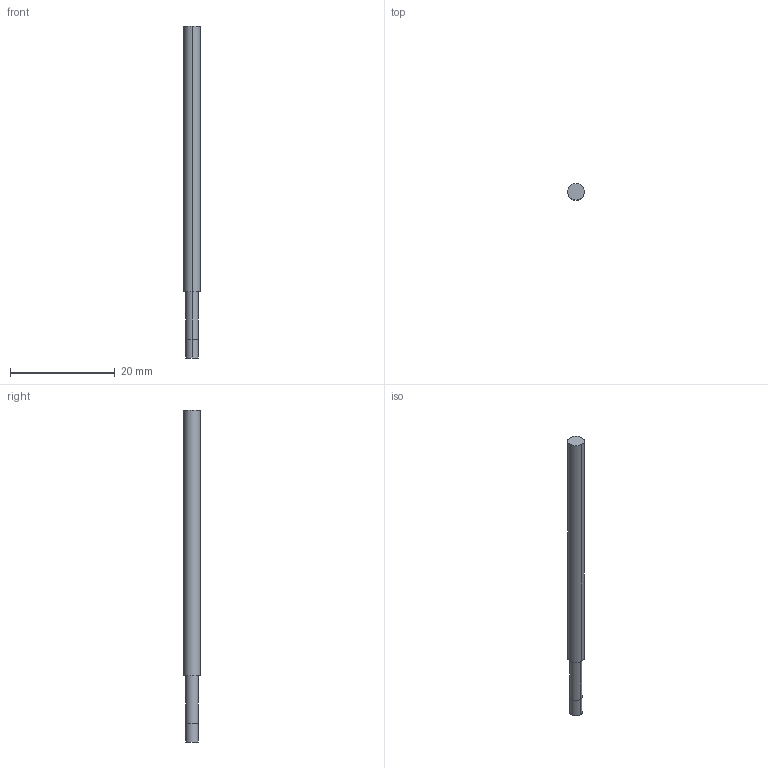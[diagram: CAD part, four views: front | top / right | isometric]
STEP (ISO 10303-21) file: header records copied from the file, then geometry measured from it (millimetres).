
FILE_DESCRIPTION((' '),'2;1');
FILE_NAME( '3MVS0938N5AH.stp', '2026-01-21T19:09:32', (' '), ('--- Datakit www.datakit.com---'), ' Datakit CrossCadWare V2025.4 Sep 19 2025', 'Mastercam 2027', ' ');
FILE_SCHEMA(('AUTOMOTIVE_DESIGN { 1 0 10303 214 1 1 1 1 }'));
Length unit declared in the file: inch
Products named in the file (1): 3MVS0938N5AH
Bounding box: 3.17 x 3.17 x 63.5 mm (x, y, z)
Volume: 458.8 mm3; surface area: 617.6 mm2
Topology: 1 solids, 1 shells, 9 faces, 16 edges, 10 vertices
Faces by surface type: cylinder 6, plane 3
Entity records: 302 total; most frequent: DIRECTION 54, CARTESIAN_POINT 40, ORIENTED_EDGE 32, AXIS2_PLACEMENT_3D 24, EDGE_CURVE 16, VERTEX_POINT 10, CIRCLE 10, EDGE_LOOP 10
